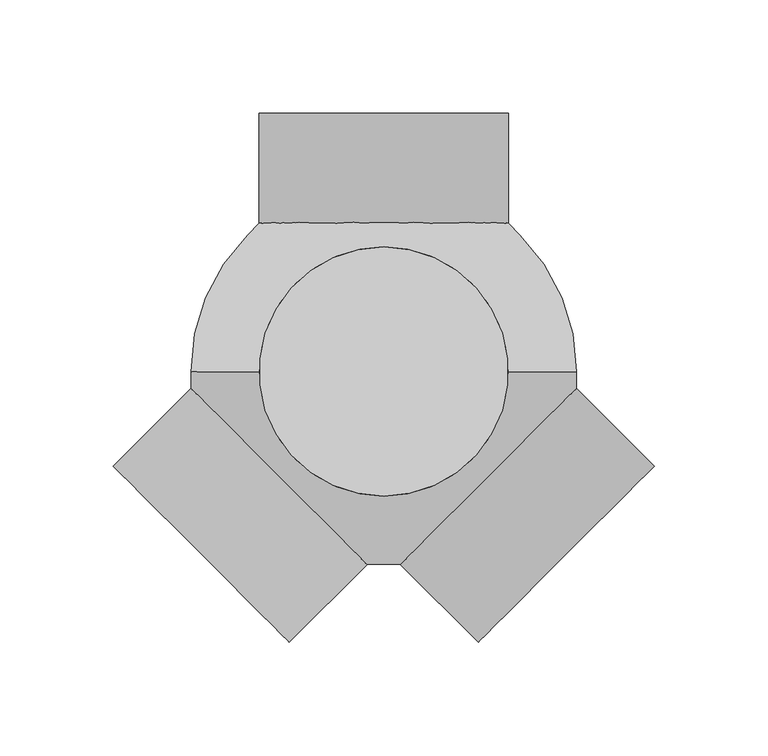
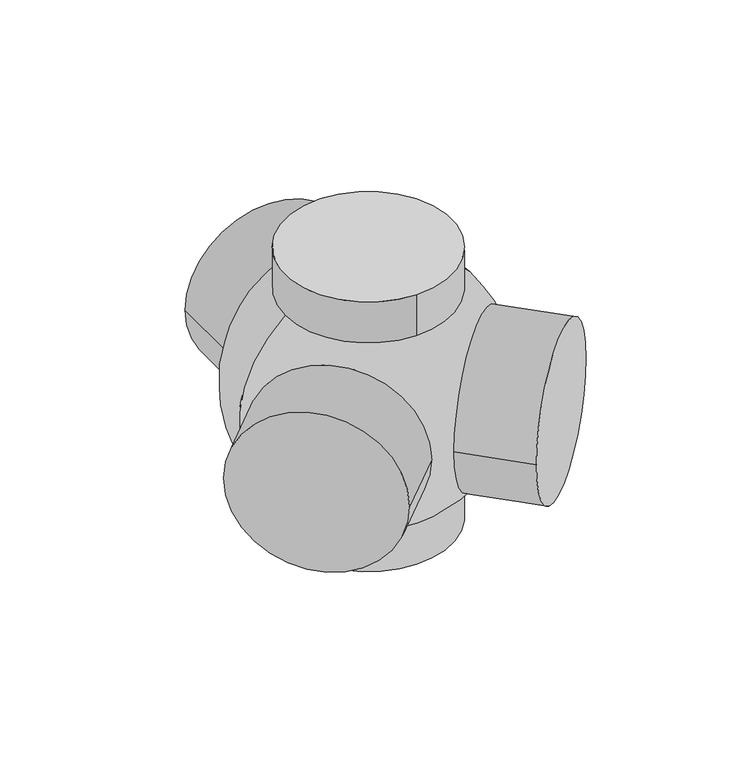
"""IFC4 building model written with IfcOpenShell, lengths in millimetres: pipe fitting geometry, Wavin_PipeAccessory_PeBranchConvexX3 : 135°."""

from ifc_helpers import new_model, si_unit, point, frame, origin, place, context, project, spatial, circle_curve, ellipse_curve, trimmed, source, transform, mapped, element, save
from ifc_brep_helpers import plane_surface, cylinder_surface, revolved_surface, advanced_brep


def pipe_fitting_47a06b1f(model_context):
    return source(origin(), model_context, "Body", "AdvancedBrep", [
        advanced_brep(
        [(41.7193001, -119.501046, 0.0), (119.501046, -41.7193001, 0.0), (85.1793705, -7.3976245, 0.0), (7.3976245, -85.1793705, 0.0), (-119.501046, -41.7193001, 0.0), (-41.7193001, -119.501046, 0.0), (-7.3976245, -85.1793705, 0.0), (-85.1793705, -7.3976245, 0.0), (55.0, 0.0, -65.4618209), (-55.0, 0.0, -65.4618209), (-55.0, 0.0, 65.4618209), (0.0, 55.0, 65.4618209), (55.0, 0.0, 65.4618209), (55.0, 65.4618209, 0.0), (-55.0, 65.4618209, 0.0), (0.0, -55.0, 65.4618209), (55.0, 0.0, -94.0), (-55.0, 0.0, -94.0), (0.0, 55.0, 94.0), (0.0, -55.0, 94.0), (-55.0, 114.0, 0.0), (55.0, 114.0, 0.0)],
        [
            (0, 1, circle_curve(frame((80.6101731, -80.6101731, 0.0), z_axis=(0.7071067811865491, -0.707106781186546, 0.0), x_axis=(0.707106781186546, 0.7071067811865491, 0.0)), 55.0)),
            (1, 0, circle_curve(frame((80.6101731, -80.6101731, 0.0), z_axis=(0.7071067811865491, -0.707106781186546, 0.0), x_axis=(0.707106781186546, 0.7071067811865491, 0.0)), 55.0)),
            (1, 2),
            (2, 3, circle_curve(frame((46.2884975, -46.2884975, 0.0), z_axis=(0.7071067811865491, -0.707106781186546, 0.0), x_axis=(0.707106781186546, 0.7071067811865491, 0.0)), 55.0)),
            (3, 0),
            (3, 2, circle_curve(frame((46.2884975, -46.2884975, 0.0), z_axis=(0.7071067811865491, -0.707106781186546, 0.0), x_axis=(0.707106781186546, 0.7071067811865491, 0.0)), 55.0)),
            (4, 5, circle_curve(frame((-80.6101731, -80.6101731, 0.0), z_axis=(-0.7071067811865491, -0.707106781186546, 0.0), x_axis=(0.707106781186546, -0.7071067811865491, 0.0)), 55.0)),
            (5, 4, circle_curve(frame((-80.6101731, -80.6101731, 0.0), z_axis=(-0.7071067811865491, -0.707106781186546, 0.0), x_axis=(0.707106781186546, -0.7071067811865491, 0.0)), 55.0)),
            (5, 6),
            (6, 7, circle_curve(frame((-46.2884975, -46.2884975, 0.0), z_axis=(-0.7071067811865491, -0.707106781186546, 0.0), x_axis=(0.707106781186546, -0.7071067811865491, 0.0)), 55.0)),
            (7, 4),
            (7, 6, circle_curve(frame((-46.2884975, -46.2884975, 0.0), z_axis=(-0.7071067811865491, -0.707106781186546, 0.0), x_axis=(0.707106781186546, -0.7071067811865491, 0.0)), 55.0)),
            (8, 9, circle_curve(frame((0.0, 0.0, -65.4618209), z_axis=(0.0, 0.0, 1.0), x_axis=(1.0, 0.0, 0.0)), 55.0)),
            (9, 10, circle_curve(frame((0.0, 0.0, 0.0), z_axis=(0.0, 1.0, 0.0), x_axis=(-1.0, 0.0, 0.0)), 85.5)),
            (10, 11, circle_curve(frame((0.0, 0.0, 65.4618209), z_axis=(0.0, 0.0, -1.0), x_axis=(1.0, 0.0, 0.0)), 55.0)),
            (11, 12, circle_curve(frame((0.0, 0.0, 65.4618209), z_axis=(0.0, 0.0, -1.0), x_axis=(1.0, 0.0, 0.0)), 55.0)),
            (12, 8, circle_curve(frame((0.0, 0.0, 0.0), z_axis=(0.0, 1.0, 0.0), x_axis=(1.0, 0.0, 0.0)), 85.5)),
            (13, 14, circle_curve(frame((0.0, 65.4618209, 0.0), z_axis=(0.0, -1.0, 0.0), x_axis=(1.0, 0.0, 0.0)), 55.0)),
            (14, 13, circle_curve(frame((0.0, 65.4618209, 0.0), z_axis=(0.0, -1.0, 0.0), x_axis=(1.0, 0.0, 0.0)), 55.0)),
            (9, 8, circle_curve(frame((0.0, 0.0, -65.4618209), z_axis=(0.0, 0.0, 1.0), x_axis=(1.0, 0.0, 0.0)), 55.0)),
            (12, 15, circle_curve(frame((0.0, 0.0, 65.4618209), z_axis=(0.0, 0.0, -1.0), x_axis=(1.0, 0.0, 0.0)), 55.0)),
            (15, 10, circle_curve(frame((0.0, 0.0, 65.4618209), z_axis=(0.0, 0.0, -1.0), x_axis=(1.0, 0.0, 0.0)), 55.0)),
            (16, 17, circle_curve(frame((0.0, 0.0, -94.0), z_axis=(0.0, 0.0, -1.0), x_axis=(-1.0, 0.0, 0.0)), 55.0)),
            (17, 16, circle_curve(frame((0.0, 0.0, -94.0), z_axis=(0.0, 0.0, -1.0), x_axis=(-1.0, 0.0, 0.0)), 55.0)),
            (16, 8),
            (9, 17),
            (18, 19, circle_curve(frame((0.0, 0.0, 94.0), z_axis=(0.0, 0.0, 1.0), x_axis=(0.0, -1.0, 0.0)), 55.0)),
            (19, 18, circle_curve(frame((0.0, 0.0, 94.0), z_axis=(0.0, 0.0, 1.0), x_axis=(0.0, -1.0, 0.0)), 55.0)),
            (18, 11),
            (15, 19),
            (20, 21, circle_curve(frame((0.0, 114.0, 0.0), z_axis=(0.0, 1.0, 0.0), x_axis=(1.0, 0.0, 0.0)), 55.0)),
            (21, 20, circle_curve(frame((0.0, 114.0, 0.0), z_axis=(0.0, 1.0, 0.0), x_axis=(1.0, 0.0, 0.0)), 55.0)),
            (20, 14),
            (13, 21),
        ],
        [
            plane_surface(frame((80.6101731, -80.6101731, 0.0), z_axis=(0.7071067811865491, -0.707106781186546, 0.0), x_axis=(0.0, 0.0, 1.0))),
            cylinder_surface(frame((0.0, 0.0, 0.0), z_axis=(-0.7071067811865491, 0.707106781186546, 0.0), x_axis=(0.707106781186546, 0.7071067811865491, 0.0)), 55.0),
            plane_surface(frame((-80.6101731, -80.6101731, 0.0), z_axis=(-0.7071067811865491, -0.707106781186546, 0.0), x_axis=(0.0, 0.0, 1.0))),
            cylinder_surface(frame((0.0, 0.0, 0.0), z_axis=(0.7071067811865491, 0.707106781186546, 0.0), x_axis=(0.707106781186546, -0.7071067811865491, 0.0)), 55.0),
            revolved_surface(trimmed(ellipse_curve(frame((0.0, 0.0, 0.0), z_axis=(0.0, -1.0, 0.0), x_axis=(1.0, 0.0, 0.0)), 85.5, 85.5), [point((0.0, 0.0, -85.5))], [point((0.0, 0.0, 85.5))], True, "CARTESIAN"), (0.0, 0.0, 355.5), (0.0, 0.0, 1.0)),
            plane_surface(frame((0.0, 0.0, -94.0), z_axis=(0.0, 0.0, -1.0), x_axis=(0.0, -1.0, 0.0))),
            cylinder_surface(frame((0.0, 0.0, -94.0), z_axis=(0.0, 0.0, -1.0), x_axis=(-1.0, 0.0, 0.0)), 55.0),
            plane_surface(frame((0.0, 0.0, 94.0), z_axis=(0.0, 0.0, 1.0), x_axis=(0.0, -1.0, 0.0))),
            cylinder_surface(frame((0.0, 0.0, 94.0), z_axis=(0.0, 0.0, 1.0), x_axis=(0.0, -1.0, 0.0)), 55.0),
            plane_surface(frame((0.0, 114.0, 0.0), z_axis=(0.0, 1.0, 0.0), x_axis=(0.0, 0.0, 1.0))),
            cylinder_surface(frame((0.0, 114.0, 0.0), z_axis=(0.0, 1.0, 0.0), x_axis=(1.0, 0.0, 0.0)), 55.0),
        ],
        [
            (0, [[1, 2]]),
            (1, [[-2, 3, 4, 5]]),
            (1, [[-1, -5, 6, -3]]),
            (2, [[7, 8]]),
            (3, [[-8, 9, 10, 11]]),
            (3, [[-7, -11, 12, -9]]),
            (4, [[13, 14, 15, 16, 17], [18, 19]]),
            (4, [[20, -17, 21, 22, -14], [-4, -6], [-10, -12]]),
            (5, [[23, 24]]),
            (6, [[-23, 25, -20, 26]]),
            (6, [[-24, -26, -13, -25]]),
            (7, [[27, 28]]),
            (8, [[-27, 29, -15, -22, 30]]),
            (8, [[-28, -30, -21, -16, -29]]),
            (9, [[31, 32]]),
            (10, [[-31, 33, -18, 34]]),
            (10, [[-32, -34, -19, -33]]),
        ],
    ),
    ])


if __name__ == "__main__":
    model = new_model("IFC4")
    model_context = context("Model", 3, world=origin())
    ifc_project = project(units=[si_unit("LENGTHUNIT", "METRE", prefix="MILLI")], contexts=[model_context])
    site = spatial("IfcSite", under=ifc_project)
    building = spatial("IfcBuilding", under=site)
    placement = place(None, origin())
    pipe_fitting_shape = pipe_fitting_47a06b1f(model_context)
    element("IfcPipeFitting", 1, ObjectType="Wavin_PipeAccessory_PeBranchConvexX3 : 135°", at=placement, inside=building, context=model_context, shape_type="MappedRepresentation", body=[
        mapped(pipe_fitting_shape, transform((0.0, 0.0, 0.0), x_axis=(1.0, 0.0, 0.0), y_axis=(0.0, 1.0, 0.0), z_axis=(0.0, 0.0, 1.0))),
    ])
    save(model, "model.ifc")
